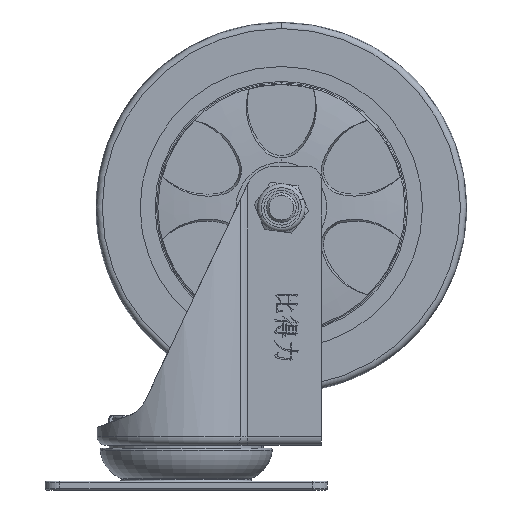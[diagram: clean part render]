
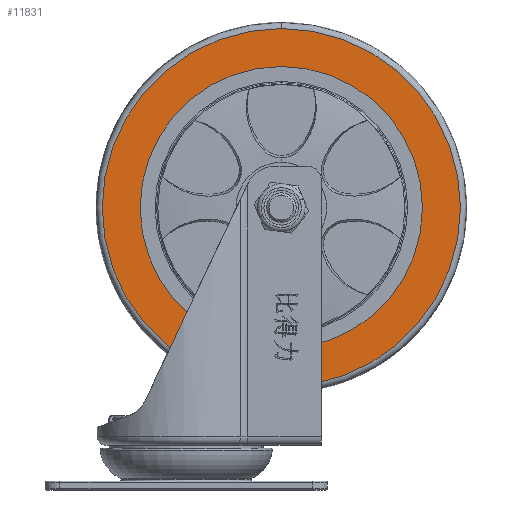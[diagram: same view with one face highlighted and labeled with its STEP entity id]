
A CAD part, front view. The second image highlights one B-rep face of the part: STEP entity #11831.
In plain terms, the highlighted planar face has unit normal (0, -1, 0).
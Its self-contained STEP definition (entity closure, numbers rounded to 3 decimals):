
#1003 = CARTESIAN_POINT ( 'NONE',  ( 0., -16.5, 60.267 ) ) ;
#2051 = VERTEX_POINT ( 'NONE', #9856 ) ;
#3276 = AXIS2_PLACEMENT_3D ( 'NONE', #4262, #25158, #8323 ) ;
#3456 = VERTEX_POINT ( 'NONE', #1003 ) ;
#3609 = EDGE_CURVE ( 'NONE', #2051, #27133, #12553, .T. ) ;
#4032 = DIRECTION ( 'NONE',  ( 0., 0., -1. ) ) ;
#4215 = CARTESIAN_POINT ( 'NONE',  ( 0., -16.5, 0. ) ) ;
#4262 = CARTESIAN_POINT ( 'NONE',  ( 0., -16.5, 0. ) ) ;
#5804 = CARTESIAN_POINT ( 'NONE',  ( 0., -16.5, 0. ) ) ;
#7290 = DIRECTION ( 'NONE',  ( 0., 0., -1. ) ) ;
#7916 = AXIS2_PLACEMENT_3D ( 'NONE', #5804, #12227, #24945 ) ;
#8263 = DIRECTION ( 'NONE',  ( 0., -1., 0. ) ) ;
#8323 = DIRECTION ( 'NONE',  ( 0., 0., -1. ) ) ;
#8354 = CIRCLE ( 'NONE', #7916, 60.267 ) ;
#9104 = DIRECTION ( 'NONE',  ( 0., 0., -1. ) ) ;
#9856 = CARTESIAN_POINT ( 'NONE',  ( 0., -16.5, -47.5 ) ) ;
#11158 = FACE_OUTER_BOUND ( 'NONE', #23712, .T. ) ;
#11482 = DIRECTION ( 'NONE',  ( 0., -1., 0. ) ) ;
#11831 = ADVANCED_FACE ( 'NONE', ( #11158, #26913 ), #13337, .T. ) ;
#12227 = DIRECTION ( 'NONE',  ( 0., -1., 0. ) ) ;
#12553 = CIRCLE ( 'NONE', #25905, 47.5 ) ;
#12573 = VERTEX_POINT ( 'NONE', #21177 ) ;
#12978 = EDGE_CURVE ( 'NONE', #3456, #12573, #22623, .T. ) ;
#13337 = PLANE ( 'NONE',  #22557 ) ;
#15147 = EDGE_CURVE ( 'NONE', #27133, #2051, #18318, .T. ) ;
#16987 = EDGE_CURVE ( 'NONE', #12573, #3456, #8354, .T. ) ;
#17754 = DIRECTION ( 'NONE',  ( 0., -1., 0. ) ) ;
#18318 = CIRCLE ( 'NONE', #25068, 47.5 ) ;
#19497 = CARTESIAN_POINT ( 'NONE',  ( 0., -16.5, 0. ) ) ;
#19960 = ORIENTED_EDGE ( 'NONE', *, *, #15147, .F. ) ;
#21177 = CARTESIAN_POINT ( 'NONE',  ( 0., -16.5, -60.267 ) ) ;
#21385 = CARTESIAN_POINT ( 'NONE',  ( 0., -16.5, 47.5 ) ) ;
#21531 = EDGE_LOOP ( 'NONE', ( #24622, #19960 ) ) ;
#22557 = AXIS2_PLACEMENT_3D ( 'NONE', #23932, #11482, #7290 ) ;
#22623 = CIRCLE ( 'NONE', #3276, 60.267 ) ;
#23128 = ORIENTED_EDGE ( 'NONE', *, *, #16987, .T. ) ;
#23712 = EDGE_LOOP ( 'NONE', ( #23128, #24013 ) ) ;
#23932 = CARTESIAN_POINT ( 'NONE',  ( 47.5, -16.5, 0. ) ) ;
#24013 = ORIENTED_EDGE ( 'NONE', *, *, #12978, .T. ) ;
#24622 = ORIENTED_EDGE ( 'NONE', *, *, #3609, .F. ) ;
#24945 = DIRECTION ( 'NONE',  ( 0., 0., -1. ) ) ;
#25068 = AXIS2_PLACEMENT_3D ( 'NONE', #19497, #17754, #9104 ) ;
#25158 = DIRECTION ( 'NONE',  ( 0., -1., 0. ) ) ;
#25905 = AXIS2_PLACEMENT_3D ( 'NONE', #4215, #8263, #4032 ) ;
#26913 = FACE_BOUND ( 'NONE', #21531, .T. ) ;
#27133 = VERTEX_POINT ( 'NONE', #21385 ) ;
